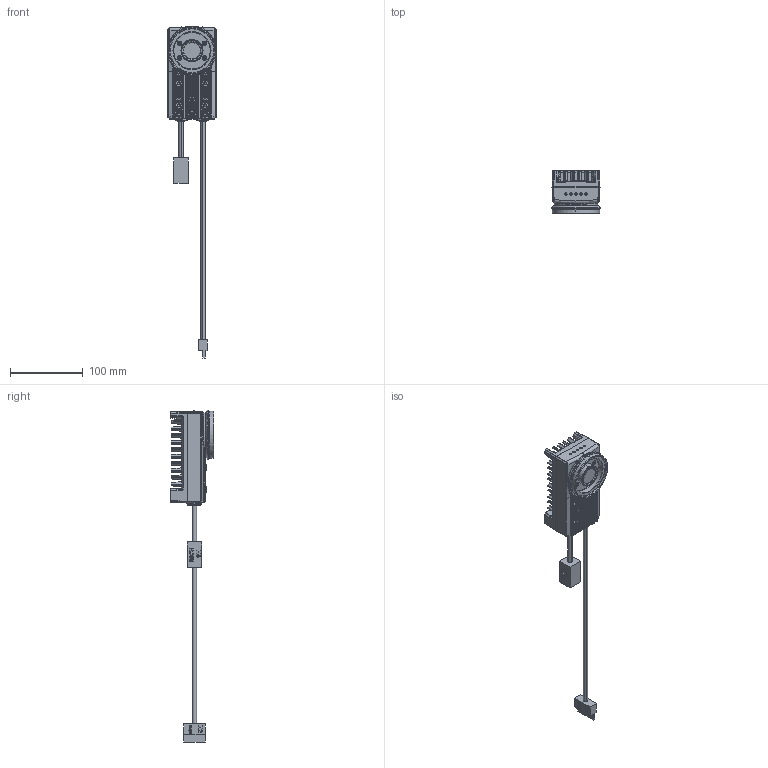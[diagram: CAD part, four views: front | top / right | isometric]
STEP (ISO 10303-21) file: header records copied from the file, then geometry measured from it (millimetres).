
FILE_DESCRIPTION((''),'2;1');
FILE_NAME('DE-20-007269_ASM-22222','2023-11-08T17:24:15',('lizhoupeng'),(''),'CREO PARAMETRIC BY PTC INC, 2020044','CREO PARAMETRIC BY PTC INC, 2020044','');
FILE_SCHEMA(('CONFIG_CONTROL_DESIGN'));
Products named in the file (1): DE-20-007269_ASM-22222
Bounding box: 67.8 x 59.2 x 456.4 mm (x, y, z)
Volume: 319627.5 mm3; surface area: 92255.8 mm2
Topology: 1 solids, 75 shells, 5427 faces, 13778 edges, 8567 vertices
Faces by surface type: plane 1976, cylinder 1377, bspline 1058, cone 519, torus 293, extrusion 120, revolution 50, sphere 34
Entity records: 231832 total; most frequent: CARTESIAN_POINT 109864, ORIENTED_EDGE 27442, DIRECTION 22675, EDGE_CURVE 13721, VERTEX_POINT 8567, AXIS2_PLACEMENT_3D 8207, VECTOR 6211, LINE 6091
